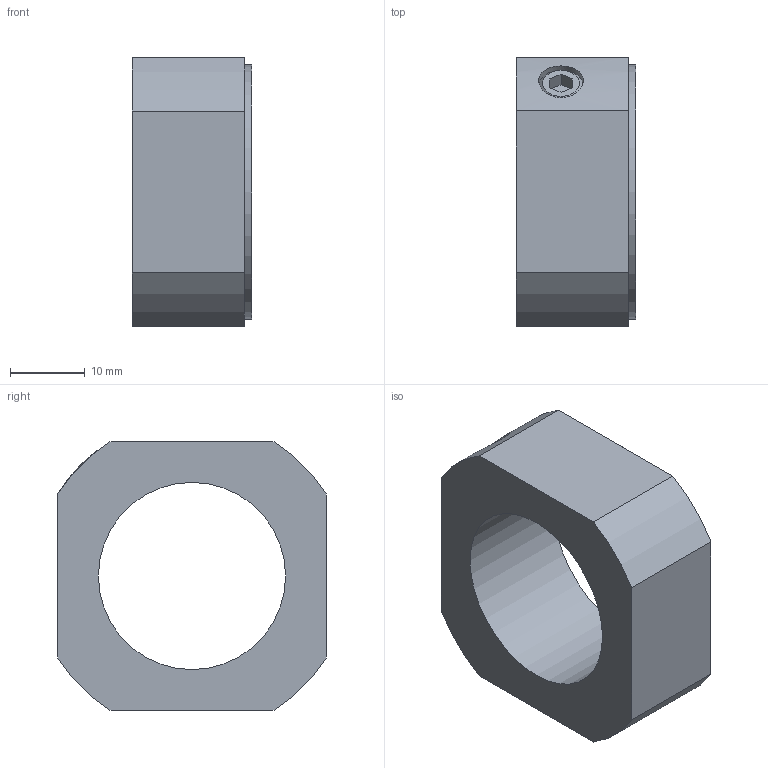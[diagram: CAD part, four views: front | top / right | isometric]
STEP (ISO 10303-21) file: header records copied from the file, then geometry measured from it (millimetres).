
FILE_DESCRIPTION((''),'2;1');
FILE_NAME('D:\製品 (図面)\カタログ用3D\ネジ関連\STEP形式\LNM\LNM25×1.5.stp','2010-06-02T14:36:49',('Tsuchiya'),(''),'Autodesk Inventor 10','Autodesk Inventor 10','');
FILE_SCHEMA(('AUTOMOTIVE_DESIGN { 1 0 10303 214 1 1 1 1 }'));
Length unit declared in the file: millimetre
Products named in the file (1): LNM25×1.5
Bounding box: 16 x 36 x 36 mm (x, y, z)
Volume: 11171.7 mm3; surface area: 4756.6 mm2
Topology: 1 solids, 1 shells, 23 faces, 55 edges, 37 vertices
Faces by surface type: plane 15, cylinder 6, cone 1, bspline 1
Full cylindrical faces by diameter (mm): 6 x1, 34 x1
Entity records: 744 total; most frequent: CARTESIAN_POINT 193, DIRECTION 108, ORIENTED_EDGE 100, EDGE_CURVE 50, AXIS2_PLACEMENT_3D 37, VERTEX_POINT 36, VECTOR 34, LINE 34
